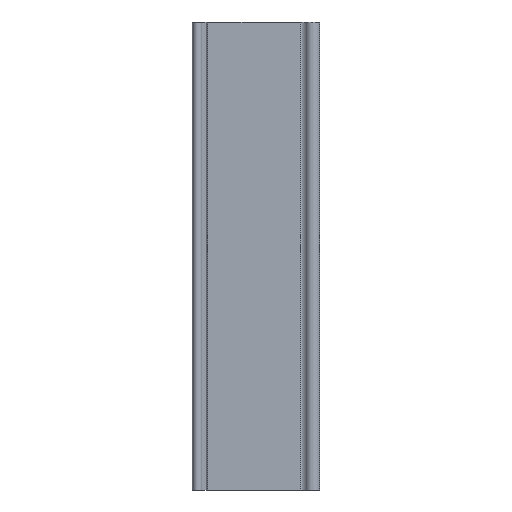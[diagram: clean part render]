
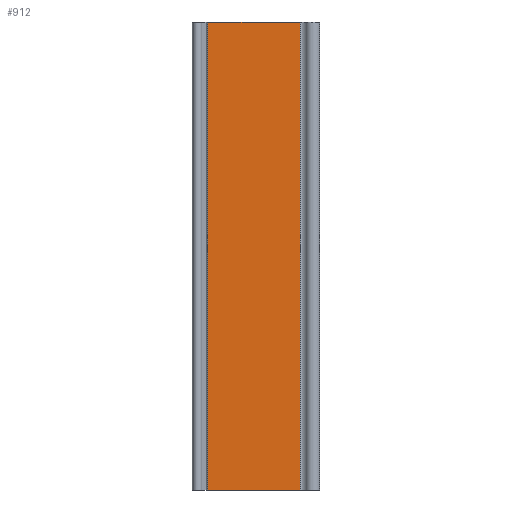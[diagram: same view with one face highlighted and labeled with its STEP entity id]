
A CAD part, front view. The second image highlights one B-rep face of the part: STEP entity #912.
In plain terms, the highlighted planar face has unit normal (0, -1, 0).
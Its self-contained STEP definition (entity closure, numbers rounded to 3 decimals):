
#88=DIRECTION('',(1.,0.,0.));
#89=VECTOR('',#88,40.2);
#90=CARTESIAN_POINT('',(4.6,-2.,0.));
#91=LINE('',#90,#89);
#171=DIRECTION('',(1.,0.,0.));
#172=VECTOR('',#171,40.2);
#173=CARTESIAN_POINT('',(4.6,-2.,203.2));
#174=LINE('',#173,#172);
#305=DIRECTION('',(0.,0.,-1.));
#306=VECTOR('',#305,203.2);
#307=CARTESIAN_POINT('',(44.8,-2.,203.2));
#308=LINE('',#307,#306);
#309=DIRECTION('',(0.,0.,-1.));
#310=VECTOR('',#309,203.2);
#311=CARTESIAN_POINT('',(4.6,-2.,203.2));
#312=LINE('',#311,#310);
#570=CARTESIAN_POINT('',(44.8,-2.,0.));
#572=VERTEX_POINT('',#570);
#573=CARTESIAN_POINT('',(44.8,-2.,203.2));
#574=VERTEX_POINT('',#573);
#577=CARTESIAN_POINT('',(4.6,-2.,0.));
#579=VERTEX_POINT('',#577);
#583=CARTESIAN_POINT('',(4.6,-2.,203.2));
#584=VERTEX_POINT('',#583);
#900=CARTESIAN_POINT('',(4.4,-2.,0.));
#901=DIRECTION('',(0.,-1.,0.));
#902=DIRECTION('',(1.,0.,0.));
#903=AXIS2_PLACEMENT_3D('',#900,#901,#902);
#904=PLANE('',#903);
#905=ORIENTED_EDGE('',*,*,#893,.T.);
#906=ORIENTED_EDGE('',*,*,#666,.F.);
#908=ORIENTED_EDGE('',*,*,#907,.F.);
#909=ORIENTED_EDGE('',*,*,#741,.T.);
#910=EDGE_LOOP('',(#905,#906,#908,#909));
#911=FACE_OUTER_BOUND('',#910,.F.);
#912=ADVANCED_FACE('',(#911),#904,.T.);
#666=EDGE_CURVE('',#579,#572,#91,.T.);
#741=EDGE_CURVE('',#584,#574,#174,.T.);
#893=EDGE_CURVE('',#574,#572,#308,.T.);
#907=EDGE_CURVE('',#584,#579,#312,.T.);
